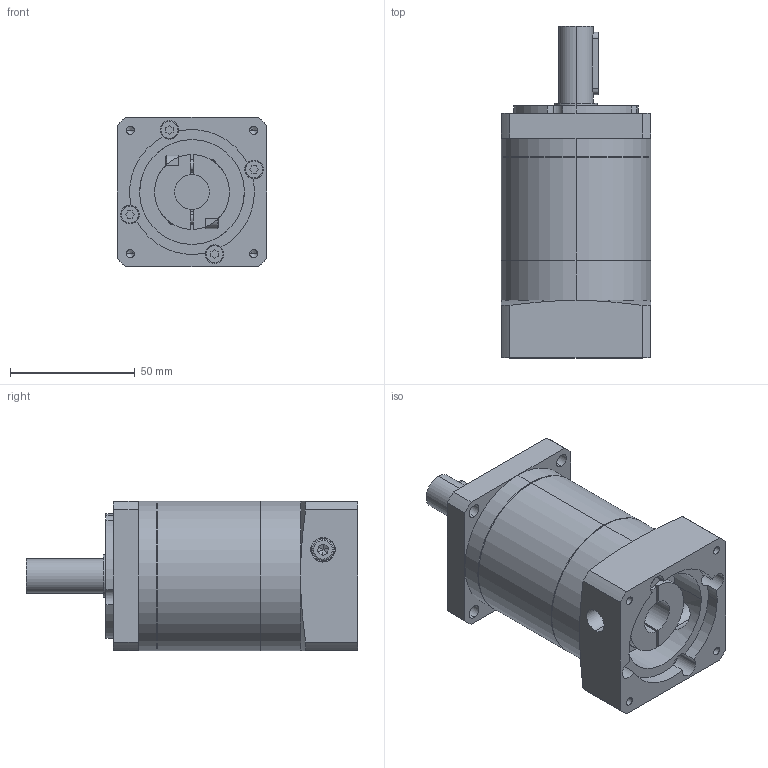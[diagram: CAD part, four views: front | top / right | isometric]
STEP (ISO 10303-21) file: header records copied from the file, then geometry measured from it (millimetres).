
FILE_DESCRIPTION (( 'STEP AP203' ), '1' );
FILE_NAME ('PLF060-L2 14-50-70-M4.STEP', '2020-06-29T02:18:21', ( '微软用户' ), ( '微软中国' ), 'SwSTEP 2.0', 'SolidWorks 2014', '' );
FILE_SCHEMA (( 'CONFIG_CONTROL_DESIGN' ));
Length unit declared in the file: millimetre
Products named in the file (7): XHF060-蟀諉啣; す瑩5-5-25; GB894．1-86轴用弹性挡圈A型17; 內六角螺絲M5_M5x15L; 內六角螺絲M4_16L; PLF060-L2 14-50-70-M4; PLF060-CQ01_L2
Assembly tree (10 placements, depth 2):
  PLF060-L2 14-50-70-M4
    PLF060-CQ01_L2
    XHF060-蟀諉啣
    す瑩5-5-25
    GB894．1-86轴用弹性挡圈A型17
    內六角螺絲M5_M5x15L  x2
    內六角螺絲M4_16L  x4
Bounding box: 60 x 133 x 60 mm (x, y, z)
Volume: 278350.1 mm3; surface area: 48273.6 mm2
Topology: 10 solids, 10 shells, 382 faces, 896 edges, 563 vertices
Faces by surface type: plane 164, cylinder 158, cone 40, torus 20
Entity records: 10049 total; most frequent: CARTESIAN_POINT 1946, DIRECTION 1634, ORIENTED_EDGE 1424, EDGE_CURVE 712, AXIS2_PLACEMENT_3D 634, VERTEX_POINT 458, VECTOR 366, LINE 366
